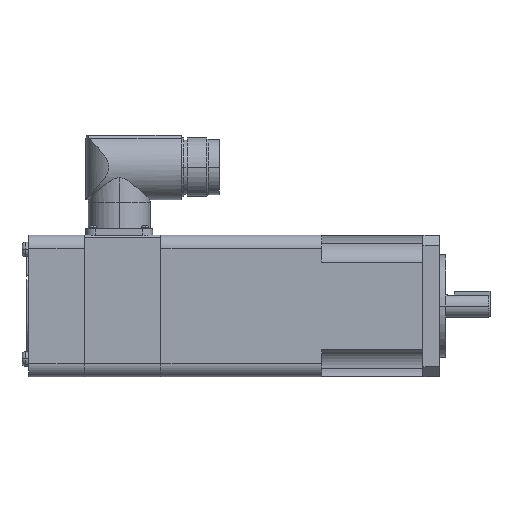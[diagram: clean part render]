
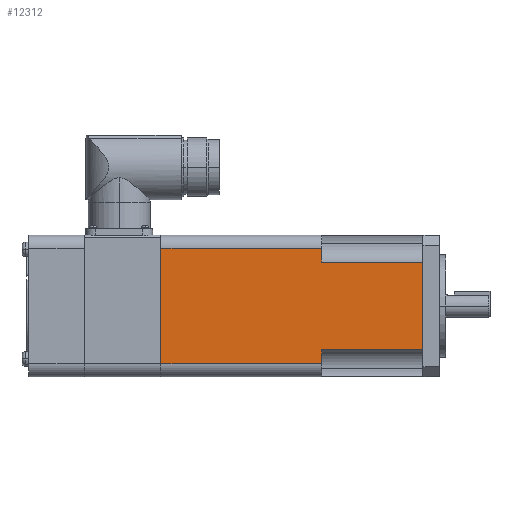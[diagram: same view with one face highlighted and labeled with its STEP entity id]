
A CAD part, top view. The second image highlights one B-rep face of the part: STEP entity #12312.
In plain terms, the highlighted planar face has unit normal (0, 0, 1).
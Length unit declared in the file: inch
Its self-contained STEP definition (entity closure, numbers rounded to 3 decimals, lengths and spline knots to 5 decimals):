
#681 = VERTEX_POINT ( 'NONE', #791 ) ;
#791 = CARTESIAN_POINT ( 'NONE',  ( -1.807, 0.885, 1.085 ) ) ;
#917 = LINE ( 'NONE', #5049, #8685 ) ;
#982 = VECTOR ( 'NONE', #6018, 39.37008 ) ;
#1892 = EDGE_CURVE ( 'NONE', #17501, #13306, #4822, .T. ) ;
#2029 = ORIENTED_EDGE ( 'NONE', *, *, #11001, .T. ) ;
#2390 = VERTEX_POINT ( 'NONE', #3497 ) ;
#2969 = VECTOR ( 'NONE', #10376, 39.37008 ) ;
#3497 = CARTESIAN_POINT ( 'NONE',  ( -1.807, 0.67258, 1.085 ) ) ;
#3667 = ORIENTED_EDGE ( 'NONE', *, *, #1892, .T. ) ;
#3773 = CARTESIAN_POINT ( 'NONE',  ( -1.807, -0.67258, 1.085 ) ) ;
#4822 = LINE ( 'NONE', #11902, #16867 ) ;
#4992 = DIRECTION ( 'NONE',  ( 0., 1., 0. ) ) ;
#5049 = CARTESIAN_POINT ( 'NONE',  ( -4.27, 0.885, 1.085 ) ) ;
#5245 = DIRECTION ( 'NONE',  ( 0., 0., -1. ) ) ;
#5478 = CARTESIAN_POINT ( 'NONE',  ( -1.807, 1.085, 1.085 ) ) ;
#5592 = VERTEX_POINT ( 'NONE', #10245 ) ;
#5642 = VECTOR ( 'NONE', #13714, 39.37008 ) ;
#6018 = DIRECTION ( 'NONE',  ( 0., 1., 0. ) ) ;
#6078 = LINE ( 'NONE', #5478, #5642 ) ;
#6237 = CARTESIAN_POINT ( 'NONE',  ( -1.807, 0.67258, 1.085 ) ) ;
#6520 = AXIS2_PLACEMENT_3D ( 'NONE', #13482, #5245, #14871 ) ;
#6620 = LINE ( 'NONE', #6237, #2969 ) ;
#6784 = ORIENTED_EDGE ( 'NONE', *, *, #15189, .F. ) ;
#7685 = CARTESIAN_POINT ( 'NONE',  ( -0.252, 0.67258, 1.085 ) ) ;
#8044 = VECTOR ( 'NONE', #15739, 39.37008 ) ;
#8685 = VECTOR ( 'NONE', #13284, 39.37008 ) ;
#8791 = VERTEX_POINT ( 'NONE', #17320 ) ;
#8822 = CARTESIAN_POINT ( 'NONE',  ( -4.27, -0.885, 1.085 ) ) ;
#8899 = CARTESIAN_POINT ( 'NONE',  ( -4.27, 1.085, 1.085 ) ) ;
#9277 = EDGE_CURVE ( 'NONE', #2390, #13306, #6620, .T. ) ;
#9357 = DIRECTION ( 'NONE',  ( -1., 0., 0. ) ) ;
#10245 = CARTESIAN_POINT ( 'NONE',  ( -4.27, 0.885, 1.085 ) ) ;
#10376 = DIRECTION ( 'NONE',  ( 1., 0., 0. ) ) ;
#10963 = CARTESIAN_POINT ( 'NONE',  ( -1.807, -0.885, 1.085 ) ) ;
#11001 = EDGE_CURVE ( 'NONE', #2390, #681, #11961, .T. ) ;
#11101 = ORIENTED_EDGE ( 'NONE', *, *, #14449, .T. ) ;
#11681 = LINE ( 'NONE', #8822, #8044 ) ;
#11899 = VECTOR ( 'NONE', #13233, 39.37008 ) ;
#11902 = CARTESIAN_POINT ( 'NONE',  ( -0.252, 1.085, 1.085 ) ) ;
#11927 = VERTEX_POINT ( 'NONE', #13619 ) ;
#11961 = LINE ( 'NONE', #14245, #982 ) ;
#12177 = CARTESIAN_POINT ( 'NONE',  ( -0.252, -0.67258, 1.085 ) ) ;
#12312 = ADVANCED_FACE ( 'NONE', ( #13656 ), #14748, .F. ) ;
#12701 = EDGE_CURVE ( 'NONE', #11927, #5592, #15574, .T. ) ;
#12743 = EDGE_CURVE ( 'NONE', #681, #5592, #917, .T. ) ;
#12897 = ORIENTED_EDGE ( 'NONE', *, *, #12701, .F. ) ;
#13175 = VECTOR ( 'NONE', #9357, 39.37008 ) ;
#13233 = DIRECTION ( 'NONE',  ( 0., 1., 0. ) ) ;
#13284 = DIRECTION ( 'NONE',  ( -1., 0., 0. ) ) ;
#13306 = VERTEX_POINT ( 'NONE', #7685 ) ;
#13373 = ORIENTED_EDGE ( 'NONE', *, *, #17114, .T. ) ;
#13482 = CARTESIAN_POINT ( 'NONE',  ( -4.27, 1.085, 1.085 ) ) ;
#13619 = CARTESIAN_POINT ( 'NONE',  ( -4.27, -0.885, 1.085 ) ) ;
#13656 = FACE_OUTER_BOUND ( 'NONE', #16918, .T. ) ;
#13714 = DIRECTION ( 'NONE',  ( 0., 1., 0. ) ) ;
#14245 = CARTESIAN_POINT ( 'NONE',  ( -1.807, 1.085, 1.085 ) ) ;
#14449 = EDGE_CURVE ( 'NONE', #11927, #15993, #11681, .T. ) ;
#14748 = PLANE ( 'NONE',  #6520 ) ;
#14871 = DIRECTION ( 'NONE',  ( -1., 0., 0. ) ) ;
#15189 = EDGE_CURVE ( 'NONE', #17501, #8791, #16837, .T. ) ;
#15574 = LINE ( 'NONE', #8899, #11899 ) ;
#15739 = DIRECTION ( 'NONE',  ( 1., 0., 0. ) ) ;
#15993 = VERTEX_POINT ( 'NONE', #10963 ) ;
#16837 = LINE ( 'NONE', #3773, #13175 ) ;
#16867 = VECTOR ( 'NONE', #4992, 39.37008 ) ;
#16918 = EDGE_LOOP ( 'NONE', ( #12897, #11101, #13373, #6784, #3667, #17524, #2029, #17079 ) ) ;
#17079 = ORIENTED_EDGE ( 'NONE', *, *, #12743, .T. ) ;
#17114 = EDGE_CURVE ( 'NONE', #15993, #8791, #6078, .T. ) ;
#17320 = CARTESIAN_POINT ( 'NONE',  ( -1.807, -0.67258, 1.085 ) ) ;
#17501 = VERTEX_POINT ( 'NONE', #12177 ) ;
#17524 = ORIENTED_EDGE ( 'NONE', *, *, #9277, .F. ) ;
